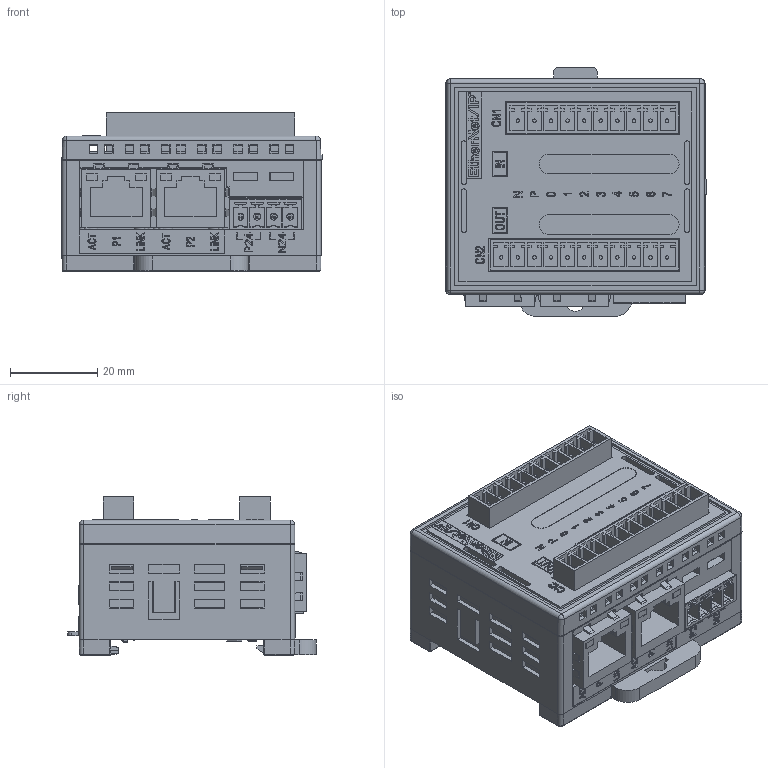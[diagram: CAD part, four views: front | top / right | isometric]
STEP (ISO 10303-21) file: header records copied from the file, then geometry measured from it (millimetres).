
FILE_DESCRIPTION((''),'2;1');
FILE_NAME('EICBP88','2026-05-11T14:57:04',('gijyu181'),(''),'CREO PARAMETRIC BY PTC INC, 2018050','CREO PARAMETRIC BY PTC INC, 2018050','');
FILE_SCHEMA(('CONFIG_CONTROL_DESIGN','SHAPE_APPEARANCE_LAYERS_GROUPS'));
Products named in the file (1): EICBP88
Bounding box: 59.75 x 57.15 x 36.3 mm (x, y, z)
Volume: 68581.3 mm3; surface area: 40797.4 mm2
Topology: 1 solids, 17 shells, 5826 faces, 16103 edges, 10629 vertices
Faces by surface type: plane 4353, cylinder 725, extrusion 612, sphere 44, cone 42, torus 26, bspline 24
Entity records: 233959 total; most frequent: CARTESIAN_POINT 40609, ORIENTED_EDGE 32170, DIRECTION 27014, EDGE_CURVE 16089, VECTOR 13676, LINE 13064, VERTEX_POINT 10629, PRESENTATION_STYLE_ASSIGNMENT 9228
